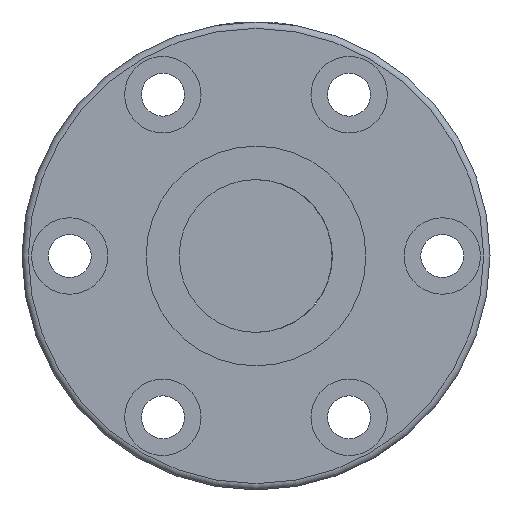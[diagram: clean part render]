
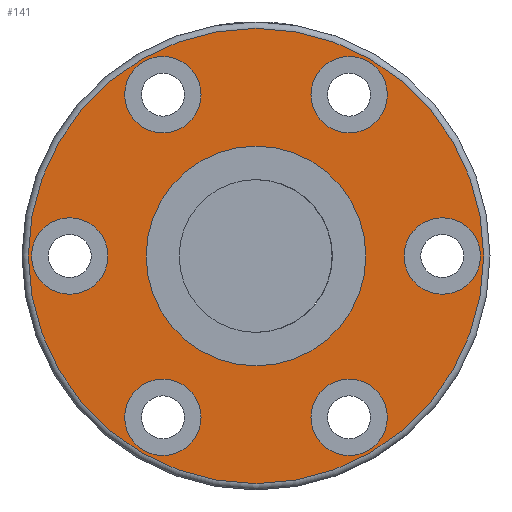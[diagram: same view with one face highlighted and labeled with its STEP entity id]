
A CAD part, front view. The second image highlights one B-rep face of the part: STEP entity #141.
In plain terms, the highlighted planar face has unit normal (0, -1, 0).
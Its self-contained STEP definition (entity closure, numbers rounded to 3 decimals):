
#117=PLANE('',#695);
#141=ADVANCED_FACE('',(#213,#214,#215,#216,#217,#218,#219,#220),#117,.F.);
#213=FACE_BOUND('',#312,.T.);
#214=FACE_BOUND('',#313,.T.);
#215=FACE_BOUND('',#314,.T.);
#216=FACE_BOUND('',#315,.T.);
#217=FACE_BOUND('',#316,.T.);
#218=FACE_BOUND('',#317,.T.);
#219=FACE_BOUND('',#318,.T.);
#220=FACE_BOUND('',#319,.T.);
#312=EDGE_LOOP('',(#412));
#313=EDGE_LOOP('',(#413));
#314=EDGE_LOOP('',(#414));
#315=EDGE_LOOP('',(#415));
#316=EDGE_LOOP('',(#416));
#317=EDGE_LOOP('',(#417));
#318=EDGE_LOOP('',(#418));
#319=EDGE_LOOP('',(#419));
#412=ORIENTED_EDGE('',*,*,#572,.T.);
#413=ORIENTED_EDGE('',*,*,#573,.T.);
#414=ORIENTED_EDGE('',*,*,#574,.T.);
#415=ORIENTED_EDGE('',*,*,#575,.T.);
#416=ORIENTED_EDGE('',*,*,#576,.T.);
#417=ORIENTED_EDGE('',*,*,#577,.T.);
#418=ORIENTED_EDGE('',*,*,#578,.T.);
#419=ORIENTED_EDGE('',*,*,#579,.F.);
#518=VERTEX_POINT('',#987);
#519=VERTEX_POINT('',#989);
#520=VERTEX_POINT('',#991);
#521=VERTEX_POINT('',#993);
#522=VERTEX_POINT('',#995);
#523=VERTEX_POINT('',#997);
#524=VERTEX_POINT('',#999);
#525=VERTEX_POINT('',#1001);
#572=EDGE_CURVE('',#518,#518,#628,.T.);
#573=EDGE_CURVE('',#519,#519,#629,.T.);
#574=EDGE_CURVE('',#520,#520,#630,.T.);
#575=EDGE_CURVE('',#521,#521,#631,.T.);
#576=EDGE_CURVE('',#522,#522,#632,.T.);
#577=EDGE_CURVE('',#523,#523,#633,.T.);
#578=EDGE_CURVE('',#524,#524,#634,.T.);
#579=EDGE_CURVE('',#525,#525,#635,.T.);
#628=CIRCLE('',#687,4.);
#629=CIRCLE('',#688,4.);
#630=CIRCLE('',#689,4.);
#631=CIRCLE('',#690,4.);
#632=CIRCLE('',#691,4.);
#633=CIRCLE('',#692,4.);
#634=CIRCLE('',#693,23.833);
#635=CIRCLE('',#694,11.5);
#687=AXIS2_PLACEMENT_3D('',#986,#798,#799);
#688=AXIS2_PLACEMENT_3D('',#988,#800,#801);
#689=AXIS2_PLACEMENT_3D('',#990,#802,#803);
#690=AXIS2_PLACEMENT_3D('',#992,#804,#805);
#691=AXIS2_PLACEMENT_3D('',#994,#806,#807);
#692=AXIS2_PLACEMENT_3D('',#996,#808,#809);
#693=AXIS2_PLACEMENT_3D('',#998,#810,#811);
#694=AXIS2_PLACEMENT_3D('',#1000,#812,#813);
#695=AXIS2_PLACEMENT_3D('',#1002,#814,#815);
#798=DIRECTION('',(0.,1.,0.));
#799=DIRECTION('',(0.,0.,1.));
#800=DIRECTION('',(0.,1.,0.));
#801=DIRECTION('',(0.,0.,1.));
#802=DIRECTION('',(0.,1.,0.));
#803=DIRECTION('',(0.,0.,1.));
#804=DIRECTION('',(0.,1.,0.));
#805=DIRECTION('',(0.,0.,1.));
#806=DIRECTION('',(0.,1.,0.));
#807=DIRECTION('',(0.,0.,1.));
#808=DIRECTION('',(0.,1.,0.));
#809=DIRECTION('',(0.,0.,1.));
#810=DIRECTION('',(0.,-1.,0.));
#811=DIRECTION('',(0.,0.,1.));
#812=DIRECTION('',(0.,-1.,0.));
#813=DIRECTION('',(1.,0.,0.));
#814=DIRECTION('',(0.,1.,0.));
#815=DIRECTION('',(0.,0.,-1.));
#986=CARTESIAN_POINT('',(19.539,-22.461,0.));
#987=CARTESIAN_POINT('',(19.539,-22.461,4.));
#988=CARTESIAN_POINT('',(-19.461,-22.461,0.));
#989=CARTESIAN_POINT('',(-19.461,-22.461,4.));
#990=CARTESIAN_POINT('',(9.789,-22.461,-16.887));
#991=CARTESIAN_POINT('',(9.789,-22.461,-12.887));
#992=CARTESIAN_POINT('',(-9.711,-22.461,-16.887));
#993=CARTESIAN_POINT('',(-9.711,-22.461,-12.887));
#994=CARTESIAN_POINT('',(9.789,-22.461,16.887));
#995=CARTESIAN_POINT('',(9.789,-22.461,20.887));
#996=CARTESIAN_POINT('',(-9.711,-22.461,16.887));
#997=CARTESIAN_POINT('',(-9.711,-22.461,20.887));
#998=CARTESIAN_POINT('',(0.039,-22.461,0.));
#999=CARTESIAN_POINT('',(0.039,-22.461,23.833));
#1000=CARTESIAN_POINT('',(0.039,-22.461,0.));
#1001=CARTESIAN_POINT('',(11.539,-22.461,0.));
#1002=CARTESIAN_POINT('',(0.039,-22.461,0.));
